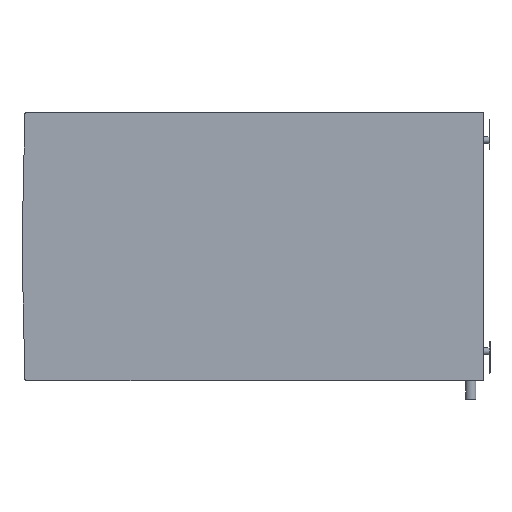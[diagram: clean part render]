
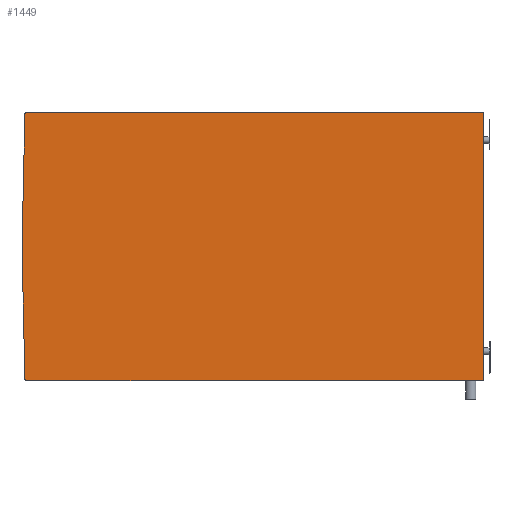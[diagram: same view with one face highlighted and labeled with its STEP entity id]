
A CAD part, left-side view. The second image highlights one B-rep face of the part: STEP entity #1449.
In plain terms, the highlighted planar face has unit normal (-1, 0, 0).
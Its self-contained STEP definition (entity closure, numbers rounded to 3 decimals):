
#140 = DIRECTION ( 'NONE',  ( 0., 0., 1. ) ) ;
#233 = VERTEX_POINT ( 'NONE', #5078 ) ;
#472 = DIRECTION ( 'NONE',  ( 0., 0., 1. ) ) ;
#636 = CARTESIAN_POINT ( 'NONE',  ( -575., 2., 355.5 ) ) ;
#762 = CARTESIAN_POINT ( 'NONE',  ( -575., 0., -355.5 ) ) ;
#977 = DIRECTION ( 'NONE',  ( 0., 1., 0. ) ) ;
#1449 = ADVANCED_FACE ( 'NONE', ( #21520 ), #23751, .T. ) ;
#1538 = CARTESIAN_POINT ( 'NONE',  ( -575., 1225., 354.642 ) ) ;
#1540 = CARTESIAN_POINT ( 'NONE',  ( -575., 1222.101, 354.578 ) ) ;
#1633 = CIRCLE ( 'NONE', #16414, 2.9 ) ;
#2198 = CARTESIAN_POINT ( 'NONE',  ( -575., 0., 355.5 ) ) ;
#3021 = CARTESIAN_POINT ( 'NONE',  ( -575., 1232.738, 0. ) ) ;
#3634 = EDGE_LOOP ( 'NONE', ( #16095, #11505, #9622, #21001, #10059, #18799, #12594, #21980, #9837 ) ) ;
#3776 = VECTOR ( 'NONE', #16560, 1000. ) ;
#3931 = VERTEX_POINT ( 'NONE', #18756 ) ;
#4137 = VERTEX_POINT ( 'NONE', #762 ) ;
#4267 = CIRCLE ( 'NONE', #20336, 2. ) ;
#4811 = VECTOR ( 'NONE', #8530, 1000. ) ;
#4838 = CARTESIAN_POINT ( 'NONE',  ( -575., 1222.101, -354.578 ) ) ;
#4873 = AXIS2_PLACEMENT_3D ( 'NONE', #1540, #19105, #10017 ) ;
#5078 = CARTESIAN_POINT ( 'NONE',  ( -575., 1232.738, 0. ) ) ;
#5426 = VERTEX_POINT ( 'NONE', #23349 ) ;
#6192 = DIRECTION ( 'NONE',  ( 0., 0., -1. ) ) ;
#6210 = DIRECTION ( 'NONE',  ( 1., 0., 0. ) ) ;
#6436 = CARTESIAN_POINT ( 'NONE',  ( -575., 1222.101, 357.478 ) ) ;
#6524 = VECTOR ( 'NONE', #977, 1000. ) ;
#6635 = CARTESIAN_POINT ( 'NONE',  ( -575., 1222.101, 357.478 ) ) ;
#7881 = LINE ( 'NONE', #19079, #18898 ) ;
#8530 = DIRECTION ( 'NONE',  ( 0., -1., 0. ) ) ;
#9055 = CARTESIAN_POINT ( 'NONE',  ( -575., 0., 0. ) ) ;
#9622 = ORIENTED_EDGE ( 'NONE', *, *, #21401, .F. ) ;
#9837 = ORIENTED_EDGE ( 'NONE', *, *, #13454, .F. ) ;
#10017 = DIRECTION ( 'NONE',  ( 0., 0., 1. ) ) ;
#10059 = ORIENTED_EDGE ( 'NONE', *, *, #25969, .F. ) ;
#10729 = EDGE_CURVE ( 'NONE', #5426, #18840, #21760, .T. ) ;
#11047 = EDGE_CURVE ( 'NONE', #4137, #5426, #4267, .T. ) ;
#11461 = DIRECTION ( 'NONE',  ( 1., 0., 0. ) ) ;
#11505 = ORIENTED_EDGE ( 'NONE', *, *, #17460, .F. ) ;
#11841 = EDGE_CURVE ( 'NONE', #233, #14170, #24945, .T. ) ;
#11927 = AXIS2_PLACEMENT_3D ( 'NONE', #636, #24189, #13696 ) ;
#12594 = ORIENTED_EDGE ( 'NONE', *, *, #10729, .F. ) ;
#12743 = CARTESIAN_POINT ( 'NONE',  ( -575., 2., 357.5 ) ) ;
#12889 = CIRCLE ( 'NONE', #11927, 2. ) ;
#13178 = VECTOR ( 'NONE', #20154, 1000. ) ;
#13454 = EDGE_CURVE ( 'NONE', #17407, #4137, #7881, .T. ) ;
#13696 = DIRECTION ( 'NONE',  ( 0., 0., 1. ) ) ;
#14170 = VERTEX_POINT ( 'NONE', #22196 ) ;
#14932 = AXIS2_PLACEMENT_3D ( 'NONE', #9055, #17453, #472 ) ;
#16095 = ORIENTED_EDGE ( 'NONE', *, *, #17501, .F. ) ;
#16414 = AXIS2_PLACEMENT_3D ( 'NONE', #4838, #11461, #22732 ) ;
#16544 = VERTEX_POINT ( 'NONE', #12743 ) ;
#16560 = DIRECTION ( 'NONE',  ( 0., -0.022, 1. ) ) ;
#16922 = EDGE_CURVE ( 'NONE', #18840, #3931, #1633, .T. ) ;
#16936 = CIRCLE ( 'NONE', #4873, 2.9 ) ;
#17407 = VERTEX_POINT ( 'NONE', #2198 ) ;
#17453 = DIRECTION ( 'NONE',  ( -1., 0., 0. ) ) ;
#17460 = EDGE_CURVE ( 'NONE', #21514, #16544, #25981, .T. ) ;
#17501 = EDGE_CURVE ( 'NONE', #16544, #17407, #12889, .T. ) ;
#18756 = CARTESIAN_POINT ( 'NONE',  ( -575., 1225., -354.642 ) ) ;
#18799 = ORIENTED_EDGE ( 'NONE', *, *, #16922, .F. ) ;
#18840 = VERTEX_POINT ( 'NONE', #24346 ) ;
#18898 = VECTOR ( 'NONE', #6192, 1000. ) ;
#19079 = CARTESIAN_POINT ( 'NONE',  ( -575., 0., -355.5 ) ) ;
#19105 = DIRECTION ( 'NONE',  ( 1., 0., 0. ) ) ;
#20154 = DIRECTION ( 'NONE',  ( 0., 0.022, 1. ) ) ;
#20336 = AXIS2_PLACEMENT_3D ( 'NONE', #25352, #6210, #140 ) ;
#21001 = ORIENTED_EDGE ( 'NONE', *, *, #11841, .F. ) ;
#21401 = EDGE_CURVE ( 'NONE', #14170, #21514, #16936, .T. ) ;
#21514 = VERTEX_POINT ( 'NONE', #6635 ) ;
#21520 = FACE_OUTER_BOUND ( 'NONE', #3634, .T. ) ;
#21760 = LINE ( 'NONE', #23995, #6524 ) ;
#21980 = ORIENTED_EDGE ( 'NONE', *, *, #11047, .F. ) ;
#22196 = CARTESIAN_POINT ( 'NONE',  ( -575., 1225., 354.642 ) ) ;
#22732 = DIRECTION ( 'NONE',  ( 0., 0., 1. ) ) ;
#23349 = CARTESIAN_POINT ( 'NONE',  ( -575., 2., -357.5 ) ) ;
#23751 = PLANE ( 'NONE',  #14932 ) ;
#23995 = CARTESIAN_POINT ( 'NONE',  ( -575., 1222.101, -357.478 ) ) ;
#24189 = DIRECTION ( 'NONE',  ( 1., 0., 0. ) ) ;
#24346 = CARTESIAN_POINT ( 'NONE',  ( -575., 1222.101, -357.478 ) ) ;
#24945 = LINE ( 'NONE', #1538, #3776 ) ;
#25352 = CARTESIAN_POINT ( 'NONE',  ( -575., 2., -355.5 ) ) ;
#25969 = EDGE_CURVE ( 'NONE', #3931, #233, #26277, .T. ) ;
#25981 = LINE ( 'NONE', #6436, #4811 ) ;
#26277 = LINE ( 'NONE', #3021, #13178 ) ;
